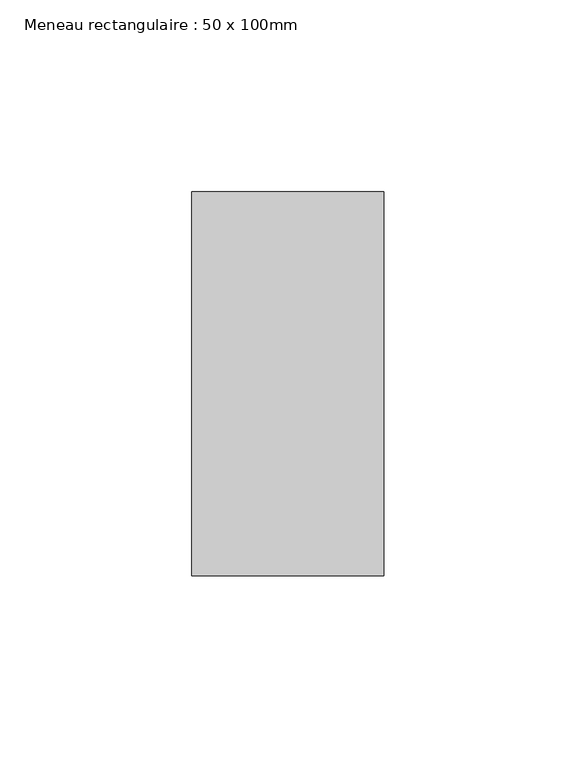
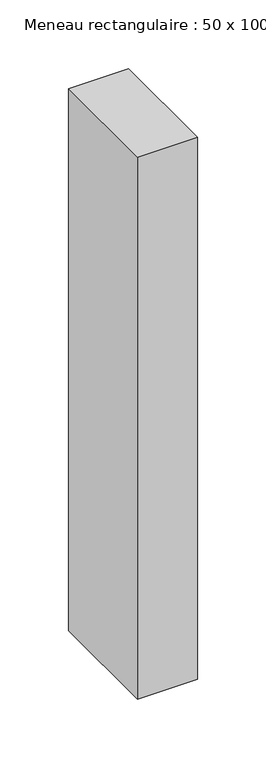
"""IFC4 building model written with IfcOpenShell, lengths in millimetres: member geometry, Meneau rectangulaire : 50 x 100mm."""

from ifc_helpers import new_model, si_unit, frame, origin, place, context, project, spatial, polyline, outline, extrude, source, transform, mapped, element, save


def meneau_rectangulaire_50_x_100mm_44c2bade(model_context):
    return source(origin(), model_context, "Body", "SweptSolid", [
        extrude(outline(polyline([(0.0, 50.0), (0.0, -50.0), (-50.0, -50.0), (-50.0, 50.0), (0.0, 50.0)])), frame((0.0, 0.0, -480.0), z_axis=(0.0, 0.0, 1.0), x_axis=(1.0, 0.0, 0.0)), (0.0, 0.0, 1.0), 480.0),
    ])


if __name__ == "__main__":
    model = new_model("IFC4")
    model_context = context("Model", 3, world=origin())
    ifc_project = project(units=[si_unit("LENGTHUNIT", "METRE", prefix="MILLI")], contexts=[model_context])
    site = spatial("IfcSite", under=ifc_project)
    building = spatial("IfcBuilding", under=site)
    placement = place(None, origin())
    meneau_rectangulaire_50_x_100mm_shape = meneau_rectangulaire_50_x_100mm_44c2bade(model_context)
    element("IfcMember", 1, ObjectType="Meneau rectangulaire : 50 x 100mm", at=placement, inside=building, context=model_context, shape_type="MappedRepresentation", body=[
        mapped(meneau_rectangulaire_50_x_100mm_shape, transform((0.0, 0.0, 0.0), x_axis=(1.0, 0.0, 0.0), y_axis=(0.0, 1.0, 0.0), z_axis=(0.0, 0.0, 1.0))),
    ])
    save(model, "model.ifc")
